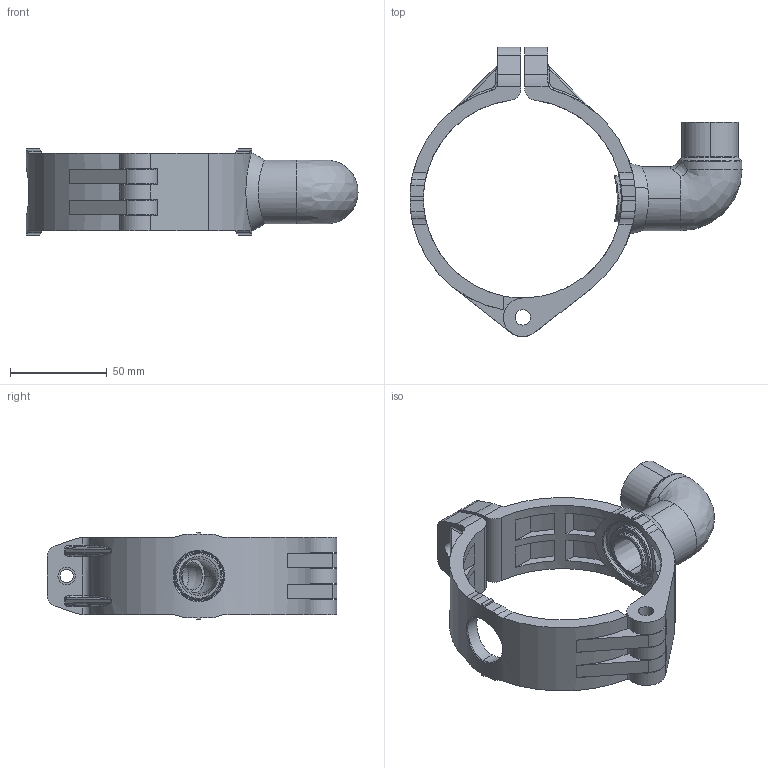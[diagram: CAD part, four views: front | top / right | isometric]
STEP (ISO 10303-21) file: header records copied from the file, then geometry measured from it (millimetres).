
FILE_DESCRIPTION(/* description */ (''),/* implementation_level */ '2;1');
FILE_NAME(/* name */ '8011_stp.stp',/* time_stamp */ '2025-06-20T11:31:42+08:00',/* author */ (''),/* organization */ (''),/* preprocessor_version */ 'ST-DEVELOPER v14',/* originating_system */ 'SIEMENS PLM Software NX 8.0',/* authorisation */ '');
FILE_SCHEMA (('AP203_CONFIGURATION_CONTROLLED_3D_DESIGN_OF_MECHANICAL_PARTS_AND_ASSEMBLIES_MIM_LF { 1 0 10303 403 2 1 2}'));
Length unit declared in the file: millimetre
Products named in the file (1): Admi0BECFFFE4xp3
Bounding box: 171.42 x 149.5 x 45 mm (x, y, z)
Volume: 143305.7 mm3; surface area: 58738.9 mm2
Topology: 2 solids, 2 shells, 326 faces, 892 edges, 592 vertices
Faces by surface type: cylinder 129, plane 123, bspline 61, torus 9, cone 4
Entity records: 18235 total; most frequent: CARTESIAN_POINT 10390, ORIENTED_EDGE 1784, DIRECTION 1383, EDGE_CURVE 892, VERTEX_POINT 592, AXIS2_PLACEMENT_3D 528, EDGE_LOOP 366, LINE 327
